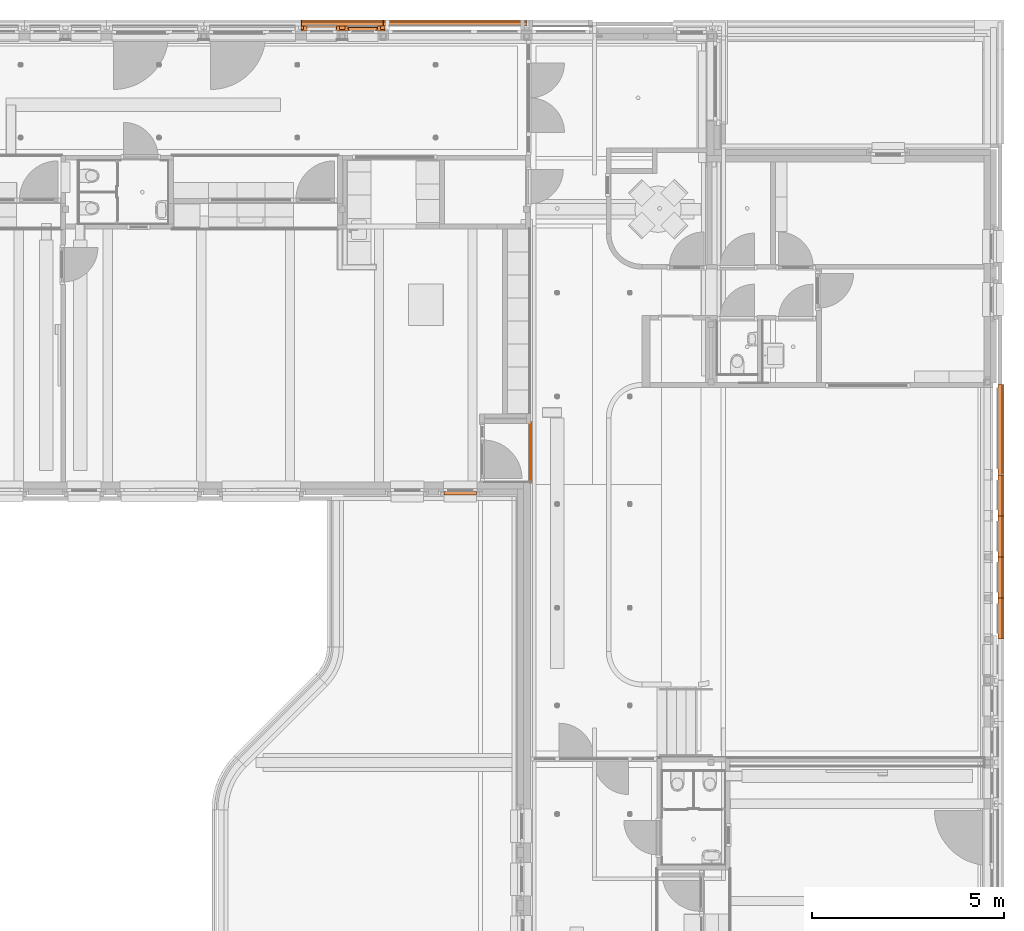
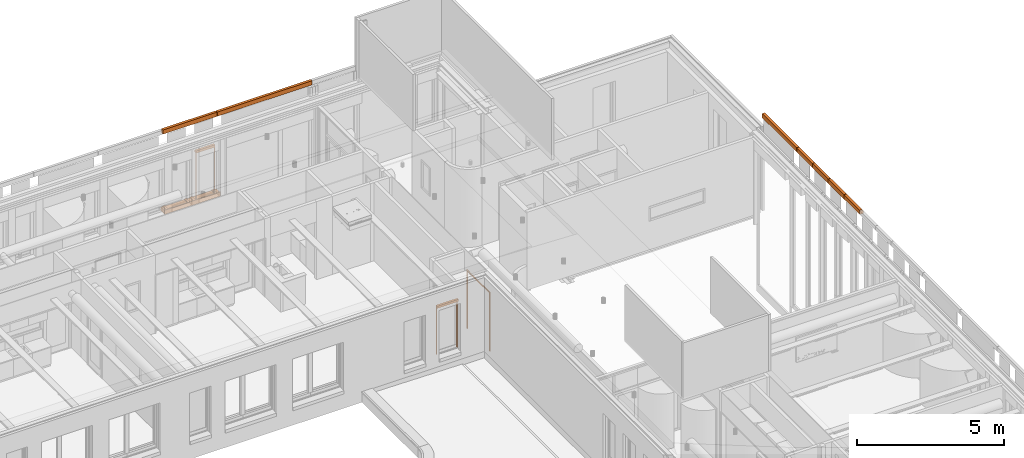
# One storey, part 120 of 128: 11 proxies.
"""IFC2X3 building model written with IfcOpenShell, lengths in millimetres."""

from ifc_helpers import new_model, entity, si_unit, converted_unit, derived_unit, direction, frame, frame_2d, origin, origin_2d_with_axis, place, context, subcontext, project, spatial, polyline, circle_curve, parameter, trimmed, segment, composite_curve, rectangle, outline, extrude, source, transform, mapped, material, material_list, type_object, type_shapes, element, save


model = new_model("IFC2X3")

# Units and contexts
model_context = context("Model", 3, precision=0.01, world=origin(), true_north=direction((6.123031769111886e-17, 1.0)))
body_context = subcontext(model_context, "Body", "Model", "MODEL_VIEW")
ifc_project = project(units=[si_unit("LENGTHUNIT", "METRE", prefix="MILLI"), si_unit("AREAUNIT", "SQUARE_METRE"), si_unit("VOLUMEUNIT", "CUBIC_METRE"), converted_unit("PLANEANGLEUNIT", "DEGREE", entity("IfcRatioMeasure", 0.017453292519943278), si_unit("PLANEANGLEUNIT", "RADIAN"), dimensions=[0, 0, 0, 0, 0, 0, 0]), si_unit("MASSUNIT", "GRAM", prefix="KILO"), derived_unit("MASSDENSITYUNIT", [(si_unit("MASSUNIT", "GRAM", prefix="KILO"), 1), (si_unit("LENGTHUNIT", "METRE"), -3)]), derived_unit("IONCONCENTRATIONUNIT", [(si_unit("MASSUNIT", "GRAM", prefix="KILO"), 1), (si_unit("LENGTHUNIT", "METRE"), -3)]), derived_unit("MOMENTOFINERTIAUNIT", [(si_unit("LENGTHUNIT", "METRE"), 4)]), si_unit("TIMEUNIT", "SECOND"), si_unit("FREQUENCYUNIT", "HERTZ"), si_unit("THERMODYNAMICTEMPERATUREUNIT", "DEGREE_CELSIUS"), derived_unit("THERMALTRANSMITTANCEUNIT", [(si_unit("MASSUNIT", "GRAM", prefix="KILO"), 1), (si_unit("THERMODYNAMICTEMPERATUREUNIT", "KELVIN"), -1), (si_unit("TIMEUNIT", "SECOND"), -3)]), derived_unit("THERMALCONDUCTANCEUNIT", [(si_unit("MASSUNIT", "GRAM", prefix="KILO"), 1), (si_unit("THERMODYNAMICTEMPERATUREUNIT", "KELVIN"), -1), (si_unit("TIMEUNIT", "SECOND"), -3), (si_unit("LENGTHUNIT", "METRE"), 1)]), derived_unit("VOLUMETRICFLOWRATEUNIT", [(si_unit("LENGTHUNIT", "METRE"), 3), (si_unit("TIMEUNIT", "SECOND"), -1)]), derived_unit("MASSFLOWRATEUNIT", [(si_unit("MASSUNIT", "GRAM", prefix="KILO"), 1), (si_unit("TIMEUNIT", "SECOND"), -1)]), derived_unit("ROTATIONALFREQUENCYUNIT", [(si_unit("TIMEUNIT", "SECOND"), -1)]), si_unit("ELECTRICCURRENTUNIT", "AMPERE"), si_unit("ELECTRICVOLTAGEUNIT", "VOLT"), si_unit("POWERUNIT", "WATT"), si_unit("FORCEUNIT", "NEWTON", prefix="KILO"), si_unit("ILLUMINANCEUNIT", "LUX"), si_unit("LUMINOUSFLUXUNIT", "LUMEN"), si_unit("LUMINOUSINTENSITYUNIT", "CANDELA"), derived_unit("USERDEFINED", [(si_unit("MASSUNIT", "GRAM", prefix="KILO"), -1), (si_unit("LENGTHUNIT", "METRE"), -2), (si_unit("TIMEUNIT", "SECOND"), 3), (si_unit("LUMINOUSFLUXUNIT", "LUMEN"), 1)]), derived_unit("USERDEFINED", [(si_unit("MASSUNIT", "GRAM", prefix="KILO"), 1), (si_unit("TIMEUNIT", "SECOND"), -3), (si_unit("LENGTHUNIT", "METRE"), 3), (si_unit("ELECTRICCURRENTUNIT", "AMPERE"), -2)]), derived_unit("SOUNDPOWERUNIT", [(si_unit("MASSUNIT", "GRAM", prefix="KILO"), 1), (si_unit("TIMEUNIT", "SECOND"), -3), (si_unit("LENGTHUNIT", "METRE"), 2)]), derived_unit("SOUNDPRESSUREUNIT", [(si_unit("MASSUNIT", "GRAM", prefix="KILO"), 1), (si_unit("LENGTHUNIT", "METRE"), -1), (si_unit("TIMEUNIT", "SECOND"), -2)]), derived_unit("LINEARVELOCITYUNIT", [(si_unit("LENGTHUNIT", "METRE"), 1), (si_unit("TIMEUNIT", "SECOND"), -1)]), si_unit("PRESSUREUNIT", "PASCAL"), derived_unit("USERDEFINED", [(si_unit("MASSUNIT", "GRAM", prefix="KILO"), 1), (si_unit("LENGTHUNIT", "METRE"), -2), (si_unit("TIMEUNIT", "SECOND"), -2)]), derived_unit("LINEARFORCEUNIT", [(si_unit("MASSUNIT", "GRAM", prefix="KILO"), 1), (si_unit("TIMEUNIT", "SECOND"), -2)]), derived_unit("PLANARFORCEUNIT", [(si_unit("MASSUNIT", "GRAM", prefix="KILO"), 1), (si_unit("LENGTHUNIT", "METRE"), -1), (si_unit("TIMEUNIT", "SECOND"), -2)]), derived_unit("SPECIFICHEATCAPACITYUNIT", [(si_unit("THERMODYNAMICTEMPERATUREUNIT", "KELVIN"), -1), (si_unit("LENGTHUNIT", "METRE"), 2), (si_unit("TIMEUNIT", "SECOND"), -2)]), derived_unit("HEATINGVALUEUNIT", [(si_unit("LENGTHUNIT", "METRE"), 2), (si_unit("TIMEUNIT", "SECOND"), -2)]), derived_unit("VAPORPERMEABILITYUNIT", [(si_unit("LENGTHUNIT", "METRE"), -1), (si_unit("TIMEUNIT", "SECOND"), 1)]), derived_unit("DYNAMICVISCOSITYUNIT", [(si_unit("MASSUNIT", "GRAM", prefix="KILO"), 1), (si_unit("TIMEUNIT", "SECOND"), -1), (si_unit("LENGTHUNIT", "METRE"), -1)]), derived_unit("THERMALEXPANSIONCOEFFICIENTUNIT", [(si_unit("THERMODYNAMICTEMPERATUREUNIT", "KELVIN"), -1)]), derived_unit("MODULUSOFELASTICITYUNIT", [(si_unit("MASSUNIT", "GRAM", prefix="KILO"), 1), (si_unit("LENGTHUNIT", "METRE"), -1), (si_unit("TIMEUNIT", "SECOND"), -2)]), derived_unit("ISOTHERMALMOISTURECAPACITYUNIT", [(si_unit("LENGTHUNIT", "METRE"), 3), (si_unit("MASSUNIT", "GRAM", prefix="KILO"), -1)]), derived_unit("MOISTUREDIFFUSIVITYUNIT", [(si_unit("TIMEUNIT", "SECOND"), -1), (si_unit("LENGTHUNIT", "METRE"), 2)])], contexts=[model_context])

# Site, building, storey
site_placement = place(None, frame((0.0, 300.0, 0.0)))
site = spatial("IfcSite", under=ifc_project, at=site_placement, Name="<Kadastrale nummers>", CompositionType="ELEMENT")
building_placement = place(site_placement, origin())
building = spatial("IfcBuilding", under=site, at=building_placement, CompositionType="ELEMENT")
storey_placement = place(building_placement, frame((0.0, 0.0, 3560.0000331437)))
storey = spatial("IfcBuildingStorey", under=building, at=storey_placement, Name="01 eerste verdieping", CompositionType="ELEMENT", Elevation=3560.0000331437)

# Proxies
ifc_material_1 = material(Name="ISR_Beton_prefab")
building_element_proxy_type_1 = type_object("IfcBuildingElementProxyType", Name="29_DAT_Prefab betonband afgeschuind:29_DAT_Prefab betonband afgeschuind", PredefinedType="NOTDEFINED", material=ifc_material_1)
shared_shape_1 = source(origin(), body_context, "Body", "SweptSolid", [
    extrude(outline(polyline([(-94.16666666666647, -83.33333333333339), (80.83333333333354, -83.33333333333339), (80.83333333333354, 16.66666666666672), (18.33333333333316, 16.666666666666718), (8.333333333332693, 66.66666666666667), (-94.16666666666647, 66.66666666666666), (-94.16666666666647, -83.33333333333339)])), frame((0.0, 16.66666666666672, -18.33333333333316), z_axis=(1.0, 0.0, 0.0), x_axis=(0.0, 0.0, 1.0)), (0.0, 0.0, 1.0), 2346.9999999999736),
])
type_shapes(building_element_proxy_type_1, [shared_shape_1])
proxy_1_placement = place(storey_placement, frame((48975.0, 38393.0, 4077.4999668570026), z_axis=(0.0, 0.0, 1.0), x_axis=(0.0, 1.0, 0.0)))
element("IfcBuildingElementProxy", 1, at=proxy_1_placement, inside=storey, type_object=building_element_proxy_type_1, material=ifc_material_1, Name="29_DAT_Prefab betonband afgeschuind:29_DAT_Prefab betonband afgeschuind", ObjectType="29_DAT_Prefab betonband afgeschuind:29_DAT_Prefab betonband afgeschuind", context=body_context, shape_type="MappedRepresentation", body=[
    mapped(shared_shape_1, transform((0.0, 0.0, 0.0), scale=1.0)),
])
building_element_proxy_type_2 = type_object("IfcBuildingElementProxyType", Name="29_DAT_Prefab betonband afgeschuind:29_DAT_Prefab betonband afgeschuind", PredefinedType="NOTDEFINED", material=ifc_material_1)
shared_shape_2 = source(origin(), body_context, "Body", "SweptSolid", [
    extrude(outline(polyline([(-83.33333333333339, -94.16666666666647), (66.66666666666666, -94.16666666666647), (66.66666666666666, 8.333333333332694), (16.66666666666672, 18.33333333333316), (16.666666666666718, 80.83333333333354), (-83.33333333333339, 80.83333333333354), (-83.33333333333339, -94.16666666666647)])), frame((0.0, -16.66666666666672, -18.33333333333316), z_axis=(1.0, 0.0, 0.0), x_axis=(0.0, 1.0, 0.0)), (0.0, 0.0, 1.0), 1063.9999999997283),
])
type_shapes(building_element_proxy_type_2, [shared_shape_2])
proxy_2_placement = place(storey_placement, frame((48975.0, 38387.0, 4077.4999668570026), z_axis=(0.0, 0.0, 1.0), x_axis=(0.0, -1.0, 0.0)))
element("IfcBuildingElementProxy", 2, at=proxy_2_placement, inside=storey, type_object=building_element_proxy_type_2, material=ifc_material_1, Name="29_DAT_Prefab betonband afgeschuind:29_DAT_Prefab betonband afgeschuind", ObjectType="29_DAT_Prefab betonband afgeschuind:29_DAT_Prefab betonband afgeschuind", context=body_context, shape_type="MappedRepresentation", body=[
    mapped(shared_shape_2, transform((0.0, 0.0, 0.0), scale=1.0)),
])
building_element_proxy_type_3 = type_object("IfcBuildingElementProxyType", Name="29_DAT_Prefab betonband afgeschuind:29_DAT_Prefab betonband afgeschuind", PredefinedType="NOTDEFINED", material=ifc_material_1)
shared_shape_3 = source(origin(), body_context, "Body", "SweptSolid", [
    extrude(outline(polyline([(-94.16666666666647, -83.33333333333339), (80.83333333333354, -83.33333333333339), (80.83333333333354, 16.66666666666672), (18.33333333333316, 16.666666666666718), (8.333333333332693, 66.66666666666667), (-94.16666666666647, 66.66666666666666), (-94.16666666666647, -83.33333333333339)])), frame((0.0, 16.66666666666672, -18.33333333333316), z_axis=(1.0, 0.0, 0.0), x_axis=(0.0, 0.0, 1.0)), (0.0, 0.0, 1.0), 1063.9999999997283),
])
type_shapes(building_element_proxy_type_3, [shared_shape_3])
for number, where, z_axis, x_axis, name in (
    (3, (48975.0, 36253.0, 4077.4999668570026), (0.0, 0.0, 1.0), (0.0, 1.0, 0.0), "29_DAT_Prefab betonband afgeschuind:29_DAT_Prefab betonband afgeschuind"),
    (4, (48975.0, 35183.0, 4077.4999668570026), (0.0, 0.0, 1.0), (0.0, 1.0, 0.0), "29_DAT_Prefab betonband afgeschuind:29_DAT_Prefab betonband afgeschuind"),
    (5, (48975.0, 34113.0, 4077.4999668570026), (0.0, 0.0, 1.0), (0.0, 1.0, 0.0), "29_DAT_Prefab betonband afgeschuind:29_DAT_Prefab betonband afgeschuind"),
):
    element("IfcBuildingElementProxy", number, at=place(storey_placement, frame(where, z_axis=z_axis, x_axis=x_axis)), inside=storey, type_object=building_element_proxy_type_3, material=ifc_material_1, Name=name, ObjectType="29_DAT_Prefab betonband afgeschuind:29_DAT_Prefab betonband afgeschuind", context=body_context, shape_type="MappedRepresentation", body=[
        mapped(shared_shape_3, transform((0.0, 0.0, 0.0), scale=1.0)),
    ])
ifc_material_2 = material(Name="STAAL_RAL 7006")
ifc_material_3 = material(Name="<Unnamed>")
ifc_material_list = material_list([ifc_material_2, ifc_material_3])
building_element_proxy_type_4 = type_object("IfcBuildingElementProxyType", Name="31_DAT_Screen_zonwering_bak85:31_DAT_Screen_zonwering_bak85", PredefinedType="NOTDEFINED", material=ifc_material_list)
shared_shape_4 = source(origin(), body_context, "Body", "SweptSolid", [
    extrude(outline(polyline([(-60.69864841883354, -53.573897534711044), (20.695945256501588, -53.573897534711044), (20.695945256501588, 1.1216926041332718), (22.501351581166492, 1.1216926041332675), (22.501351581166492, 24.626102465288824), (17.501351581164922, 24.626102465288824), (17.501351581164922, 27.826102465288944), (-60.69864841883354, 27.826102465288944), (-60.69864841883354, -53.573897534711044)])), frame((748.0, -29.62610246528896, 2752.501351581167), z_axis=(1.0, 0.0, 0.0), x_axis=(0.0, 0.0, -1.0)), (0.0, 0.0, 1.0), 1.9999999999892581),
    extrude(outline(polyline([(-55.83243227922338, -51.08259835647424), (29.167567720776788, -51.08259835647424), (29.167567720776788, 5.412991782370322), (27.362161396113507, 5.412991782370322), (27.362161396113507, -49.28259835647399), (-54.032432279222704, -49.28259835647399), (-54.032432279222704, 32.117401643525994), (24.16756772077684, 32.117401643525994), (24.16756772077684, 28.91740164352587), (29.167567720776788, 28.91740164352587), (29.167567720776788, 33.917401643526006), (-55.83243227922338, 33.917401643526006), (-55.83243227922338, -51.08259835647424)])), frame((0.0, -33.917401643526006, 2759.1675677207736), z_axis=(1.0, 0.0, 0.0), x_axis=(0.0, 0.0, -1.0)), (0.0, 0.0, 1.0), 749.9999999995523),
    extrude(outline(polyline([(-60.69864841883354, -53.573897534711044), (20.695945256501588, -53.573897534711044), (20.695945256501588, 1.1216926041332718), (22.501351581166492, 1.1216926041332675), (22.501351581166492, 24.626102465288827), (17.501351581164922, 24.626102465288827), (17.501351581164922, 27.826102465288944), (-60.69864841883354, 27.826102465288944), (-60.69864841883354, -53.573897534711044)])), frame((0.0, -29.62610246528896, 2752.501351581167), z_axis=(1.0, 0.0, 0.0), x_axis=(0.0, 0.0, -1.0)), (0.0, 0.0, 1.0), 1.999999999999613),
    extrude(rectangle(XDim=709.9999999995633, YDim=1.163311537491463, at=frame_2d((0.0, -2.1094237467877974e-15), x_axis=(1.0, 0.0))), frame((375.0, -20.037293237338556, 2730.0)), (0.0, 0.0, 1.0), 4.971712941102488),
    extrude(outline(composite_curve([segment(polyline([(-7.502327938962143, -23.023758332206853), (7.497672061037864, -23.023758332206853)]), True, "CONTINUOUS"), segment(trimmed(circle_curve(frame_2d((7.497672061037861, -21.523758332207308), x_axis=(0.0, -1.0)), 1.4999999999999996), [parameter(359.99999999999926)], [parameter(90.00000000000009)], True, "PARAMETER"), True, "CONTINUOUS"), segment(polyline([(8.997672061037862, -21.523758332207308), (8.997672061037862, 8.976241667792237)]), True, "CONTINUOUS"), segment(trimmed(circle_curve(frame_2d((5.99767206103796, 8.976241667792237), x_axis=(0.0, -1.0)), 3.0), [parameter(90.00000000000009)], [parameter(172.84454900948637)], True, "PARAMETER"), True, "CONTINUOUS"), segment(polyline([(6.371357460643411, 11.952877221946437), (2.232090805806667, 12.470504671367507)]), True, "CONTINUOUS"), segment(trimmed(circle_curve(frame_2d((2.1399803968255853, 11.733933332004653), x_axis=(0.0, -1.0)), 0.7423083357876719), [parameter(172.87199730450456)], [parameter(323.5235343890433)], True, "PARAMETER"), True, "CONTINUOUS"), segment(trimmed(circle_curve(frame_2d((-0.0023279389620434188, 8.976241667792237), x_axis=(0.0, -1.0)), 2.75), [parameter(217.47327986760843)], [parameter(141.78969998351)], True, "PARAMETER"), False, "CONTINUOUS"), segment(trimmed(circle_curve(frame_2d((-2.144636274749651, 11.733933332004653), x_axis=(0.0, -1.0)), 0.7423083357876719), [parameter(39.207114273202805)], [parameter(187.12800269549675)], True, "PARAMETER"), True, "CONTINUOUS"), segment(polyline([(-2.2367466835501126, 12.470504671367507), (-6.376013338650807, 11.952877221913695)]), True, "CONTINUOUS"), segment(trimmed(circle_curve(frame_2d((-6.002327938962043, 8.976241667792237), x_axis=(0.0, -1.0)), 3.0), [parameter(187.1554509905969)], [parameter(269.9999999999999)], True, "PARAMETER"), True, "CONTINUOUS"), segment(polyline([(-9.002327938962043, 8.976241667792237), (-9.002327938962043, -21.523758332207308)]), True, "CONTINUOUS"), segment(trimmed(circle_curve(frame_2d((-7.502327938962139, -21.523758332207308), x_axis=(0.0, -1.0)), 1.5000000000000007), [parameter(269.9999999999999)], [parameter(359.9999999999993)], True, "PARAMETER"), True, "CONTINUOUS")], self_intersect=False)), frame((20.0, -19.997672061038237, 2727.9954712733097), z_axis=(1.0, 0.0, 0.0), x_axis=(0.0, 1.0, 0.0)), (0.0, 0.0, 1.0), 709.9999999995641),
    extrude(outline(polyline([(-14.638298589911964, -16.231574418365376), (-13.138298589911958, -16.231574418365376), (-13.138298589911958, 12.232729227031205), (-6.116685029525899, 12.232729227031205), (-6.116685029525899, -6.231574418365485), (-1.116685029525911, -6.231574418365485), (-1.116685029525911, -4.769580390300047), (-4.579546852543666, -4.769580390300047), (-4.579546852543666, 12.23272922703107), (13.86611127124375, 12.23272922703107), (13.86611127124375, -4.769580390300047), (10.36170141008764, -4.769580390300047), (10.36170141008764, -6.2315744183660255), (15.36170141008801, -6.2315744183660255), (15.36170141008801, 13.768425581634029), (-14.638298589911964, 13.768425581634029), (-14.638298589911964, -16.231574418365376)])), frame((736.2315744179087, -14.638298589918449, 800.0), z_axis=(0.0, 0.0, 1.0), x_axis=(0.0, -1.0, 0.0)), (0.0, 0.0, 1.0), 1930.000000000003),
    extrude(outline(polyline([(-16.231574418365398, -14.638298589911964), (13.768425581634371, -14.638298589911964), (13.76842558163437, 15.361701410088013), (-6.231574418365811, 15.361701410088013), (-6.231574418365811, 10.361701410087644), (-4.769580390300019, 10.361701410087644), (-4.769580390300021, 13.866111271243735), (12.2327292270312, 13.866111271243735), (12.2327292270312, -4.57954685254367), (-4.769580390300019, -4.57954685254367), (-4.769580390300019, -1.1166850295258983), (-6.231574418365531, -1.1166850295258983), (-6.231574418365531, -6.116685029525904), (12.232729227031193, -6.116685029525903), (12.232729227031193, -13.138298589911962), (-16.231574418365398, -13.138298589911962), (-16.231574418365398, -14.638298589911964)])), frame((13.768425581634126, -14.638298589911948, 800.0), z_axis=(0.0, 0.0, 1.0), x_axis=(-1.0, 0.0, 0.0)), (0.0, 0.0, 1.0), 1930.0000000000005),
])
type_shapes(building_element_proxy_type_4, [shared_shape_4])
proxy_3_placement = place(storey_placement, frame((32710.0, 49951.0, 100.00000187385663), z_axis=(0.0, 0.0, 1.0), x_axis=(-1.0, 0.0, 0.0)))
element("IfcBuildingElementProxy", 6, at=proxy_3_placement, inside=storey, type_object=building_element_proxy_type_4, material=ifc_material_list, Name="31_DAT_Screen_zonwering_bak85:31_DAT_Screen_zonwering_bak85", ObjectType="31_DAT_Screen_zonwering_bak85:31_DAT_Screen_zonwering_bak85", context=body_context, shape_type="MappedRepresentation", body=[
    mapped(shared_shape_4, transform((0.0, 0.0, 0.0), scale=1.0)),
])
building_element_proxy_type_5 = type_object("IfcBuildingElementProxyType", Name="29_DAT_Prefab betonband afgeschuind:29_DAT_Prefab betonband afgeschuind", PredefinedType="NOTDEFINED", material=ifc_material_1)
shared_shape_5 = source(origin(), body_context, "Body", "SweptSolid", [
    extrude(outline(polyline([(-94.16666666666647, -83.33333333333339), (80.83333333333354, -83.33333333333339), (80.83333333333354, 16.66666666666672), (18.33333333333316, 16.666666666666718), (8.333333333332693, 66.66666666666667), (-94.16666666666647, 66.66666666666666), (-94.16666666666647, -83.33333333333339)])), frame((0.0, 16.66666666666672, -18.33333333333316), z_axis=(1.0, 0.0, 0.0), x_axis=(0.0, 0.0, 1.0)), (0.0, 0.0, 1.0), 2123.999999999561),
])
type_shapes(building_element_proxy_type_5, [shared_shape_5])
proxy_4_placement = place(storey_placement, frame((32867.0, 50175.0, 4077.4999668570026), z_axis=(0.0, 0.0, 1.0), x_axis=(-1.0, 0.0, 0.0)))
element("IfcBuildingElementProxy", 7, at=proxy_4_placement, inside=storey, type_object=building_element_proxy_type_5, material=ifc_material_1, Name="29_DAT_Prefab betonband afgeschuind:29_DAT_Prefab betonband afgeschuind", ObjectType="29_DAT_Prefab betonband afgeschuind:29_DAT_Prefab betonband afgeschuind", context=body_context, shape_type="MappedRepresentation", body=[
    mapped(shared_shape_5, transform((0.0, 0.0, 0.0), scale=1.0)),
])
building_element_proxy_type_6 = type_object("IfcBuildingElementProxyType", Name="29_DAT_Prefab betonband afgeschuind:29_DAT_Prefab betonband afgeschuind", PredefinedType="NOTDEFINED", material=ifc_material_1)
shared_shape_6 = source(origin(), body_context, "Body", "SweptSolid", [
    extrude(outline(polyline([(-94.16666666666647, -83.33333333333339), (80.83333333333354, -83.33333333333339), (80.83333333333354, 16.66666666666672), (18.33333333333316, 16.666666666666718), (8.333333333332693, 66.66666666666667), (-94.16666666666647, 66.66666666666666), (-94.16666666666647, -83.33333333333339)])), frame((0.0, 16.66666666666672, -18.33333333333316), z_axis=(1.0, 0.0, 0.0), x_axis=(0.0, 0.0, 1.0)), (0.0, 0.0, 1.0), 3724.00000000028),
])
type_shapes(building_element_proxy_type_6, [shared_shape_6])
proxy_5_placement = place(storey_placement, frame((36597.0, 50175.0, 4077.4999668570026), z_axis=(0.0, 0.0, 1.0), x_axis=(-1.0, 0.0, 0.0)))
element("IfcBuildingElementProxy", 8, at=proxy_5_placement, inside=storey, type_object=building_element_proxy_type_6, material=ifc_material_1, Name="29_DAT_Prefab betonband afgeschuind:29_DAT_Prefab betonband afgeschuind", ObjectType="29_DAT_Prefab betonband afgeschuind:29_DAT_Prefab betonband afgeschuind", context=body_context, shape_type="MappedRepresentation", body=[
    mapped(shared_shape_6, transform((0.0, 0.0, 0.0), scale=1.0)),
])
building_element_proxy_type_7 = type_object("IfcBuildingElementProxyType", Name="31_DAT_Screen_zonwering_bak85:31_DAT_Screen_zonwering_bak85", PredefinedType="NOTDEFINED", material=ifc_material_list)
shared_shape_7 = source(origin(), body_context, "Body", "SweptSolid", [
    extrude(outline(polyline([(-53.573897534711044, -60.698648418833), (27.826102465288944, -60.698648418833), (27.826102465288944, 17.501351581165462), (24.626102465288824, 17.501351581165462), (24.626102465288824, 22.501351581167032), (1.1216926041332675, 22.501351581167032), (1.1216926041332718, 20.695945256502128), (-53.573897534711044, 20.695945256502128), (-53.573897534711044, -60.698648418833)])), frame((838.0, 29.62610246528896, 2772.501351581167), z_axis=(1.0, 0.0, 0.0), x_axis=(0.0, -1.0, 0.0)), (0.0, 0.0, 1.0), 1.9999999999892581),
    extrude(outline(polyline([(-51.082598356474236, -55.832432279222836), (33.91740164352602, -55.832432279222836), (33.91740164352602, 29.167567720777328), (28.91740164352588, 29.167567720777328), (28.91740164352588, 24.16756772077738), (32.117401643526, 24.16756772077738), (32.117401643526, -54.032432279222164), (-49.28259835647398, -54.032432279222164), (-49.28259835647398, 27.362161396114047), (5.41299178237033, 27.362161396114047), (5.41299178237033, 29.167567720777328), (-51.082598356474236, 29.167567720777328), (-51.082598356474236, -55.832432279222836)])), frame((0.0, 33.91740164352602, 2779.1675677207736), z_axis=(1.0, 0.0, 0.0), x_axis=(0.0, -1.0, 0.0)), (0.0, 0.0, 1.0), 839.9999999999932),
    extrude(outline(polyline([(-53.573897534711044, -60.698648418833), (27.826102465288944, -60.698648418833), (27.826102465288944, 17.501351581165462), (24.626102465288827, 17.501351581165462), (24.626102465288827, 22.501351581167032), (1.1216926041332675, 22.501351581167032), (1.1216926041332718, 20.695945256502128), (-53.573897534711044, 20.695945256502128), (-53.573897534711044, -60.698648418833)])), frame((0.0, 29.62610246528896, 2772.501351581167), z_axis=(1.0, 0.0, 0.0), x_axis=(0.0, -1.0, 0.0)), (0.0, 0.0, 1.0), 1.999999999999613),
    extrude(rectangle(XDim=1.163311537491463, YDim=800.0000000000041, at=frame_2d((2.1094237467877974e-15, 0.0), x_axis=(1.0, 0.0))), frame((420.0, 20.03729323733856, 2750.0), z_axis=(0.0, 0.0, 1.0), x_axis=(0.0, -1.0, 0.0)), (0.0, 0.0, 1.0), 47.3934410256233),
    extrude(outline(composite_curve([segment(trimmed(circle_curve(frame_2d((21.523758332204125, 7.502327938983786), x_axis=(1.0, 0.0)), 1.5000000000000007), [parameter(6.615553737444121e-13)], [parameter(90.00000000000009)], True, "PARAMETER"), True, "CONTINUOUS"), segment(polyline([(21.523758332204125, 9.00232793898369), (-8.97624166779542, 9.00232793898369)]), True, "CONTINUOUS"), segment(trimmed(circle_curve(frame_2d((-8.97624166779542, 6.00232793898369), x_axis=(1.0, 0.0)), 3.0), [parameter(90.00000000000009)], [parameter(172.8445490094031)], True, "PARAMETER"), True, "CONTINUOUS"), segment(polyline([(-11.952877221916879, 6.376013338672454), (-12.470504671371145, 2.2367466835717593)]), True, "CONTINUOUS"), segment(trimmed(circle_curve(frame_2d((-11.733933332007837, 2.1446362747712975), x_axis=(1.0, 0.0)), 0.7423083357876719), [parameter(172.87199730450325)], [parameter(320.7928857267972)], True, "PARAMETER"), True, "CONTINUOUS"), segment(trimmed(circle_curve(frame_2d((-8.97624166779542, 0.002327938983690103), x_axis=(1.0, 0.0)), 2.75), [parameter(218.21030001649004)], [parameter(142.52672013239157)], True, "PARAMETER"), False, "CONTINUOUS"), segment(trimmed(circle_curve(frame_2d((-11.733933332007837, -2.1399803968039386), x_axis=(1.0, 0.0)), 0.7423083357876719), [parameter(36.476465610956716)], [parameter(187.12800269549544)], True, "PARAMETER"), True, "CONTINUOUS"), segment(polyline([(-12.470504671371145, -2.2320908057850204), (-11.95287722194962, -6.3713574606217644)]), True, "CONTINUOUS"), segment(trimmed(circle_curve(frame_2d((-8.97624166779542, -5.9976720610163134), x_axis=(1.0, 0.0)), 3.0), [parameter(187.15545099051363)], [parameter(269.9999999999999)], True, "PARAMETER"), True, "CONTINUOUS"), segment(polyline([(-8.97624166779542, -8.997672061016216), (21.523758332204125, -8.997672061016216)]), True, "CONTINUOUS"), segment(trimmed(circle_curve(frame_2d((21.523758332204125, -7.497672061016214), x_axis=(1.0, 0.0)), 1.4999999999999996), [parameter(269.9999999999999)], [parameter(7.124442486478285e-13)], True, "PARAMETER"), True, "CONTINUOUS"), segment(polyline([(23.02375833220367, -7.4976720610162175), (23.02375833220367, 7.50232793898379)]), True, "CONTINUOUS")], self_intersect=False)), frame((20.0, 19.99767206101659, 2790.417199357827), z_axis=(1.0, 0.0, 0.0), x_axis=(0.0, 0.0, -1.0)), (0.0, 0.0, 1.0), 800.0000000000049),
    extrude(outline(polyline([(-16.231574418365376, -14.638298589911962), (13.768425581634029, -14.638298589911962), (13.768425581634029, 15.36170141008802), (-6.2315744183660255, 15.36170141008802), (-6.2315744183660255, 10.361701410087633), (-4.769580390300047, 10.361701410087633), (-4.769580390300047, 13.866111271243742), (12.23272922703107, 13.866111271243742), (12.23272922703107, -4.579546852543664), (-4.769580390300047, -4.579546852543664), (-4.769580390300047, -1.1166850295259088), (-6.231574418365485, -1.1166850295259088), (-6.231574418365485, -6.116685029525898), (12.232729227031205, -6.116685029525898), (12.232729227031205, -13.138298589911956), (-16.231574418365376, -13.138298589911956), (-16.231574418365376, -14.638298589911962)])), frame((826.2315744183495, 14.638298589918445, 810.0)), (0.0, 0.0, 1.0), 1940.0000000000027),
    extrude(outline(polyline([(-14.638298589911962, -16.231574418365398), (-13.13829858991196, -16.231574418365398), (-13.13829858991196, 12.232729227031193), (-6.116685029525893, 12.232729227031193), (-6.116685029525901, -6.231574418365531), (-1.116685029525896, -6.231574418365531), (-1.116685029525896, -4.769580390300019), (-4.579546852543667, -4.769580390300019), (-4.579546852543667, 12.2327292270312), (13.866111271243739, 12.2327292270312), (13.866111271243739, -4.769580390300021), (10.361701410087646, -4.769580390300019), (10.361701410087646, -6.231574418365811), (15.361701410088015, -6.231574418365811), (15.361701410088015, 13.76842558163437), (-14.638298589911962, 13.76842558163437), (-14.638298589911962, -16.231574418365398)])), frame((13.768425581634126, 14.638298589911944, 810.0), z_axis=(0.0, 0.0, 1.0), x_axis=(0.0, 1.0, 0.0)), (0.0, 0.0, 1.0), 1940.0000000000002),
])
type_shapes(building_element_proxy_type_7, [shared_shape_7])
proxy_6_placement = place(storey_placement, frame((35294.0, 37949.0, 90.00000187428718), z_axis=(0.0, 0.0, 1.0), x_axis=(-1.0, 0.0, 0.0)))
element("IfcBuildingElementProxy", 9, at=proxy_6_placement, inside=storey, type_object=building_element_proxy_type_7, material=ifc_material_list, Name="31_DAT_Screen_zonwering_bak85:31_DAT_Screen_zonwering_bak85", ObjectType="31_DAT_Screen_zonwering_bak85:31_DAT_Screen_zonwering_bak85", context=body_context, shape_type="MappedRepresentation", body=[
    mapped(shared_shape_7, transform((0.0, 0.0, 0.0), scale=1.0)),
])

# Space
space_placement = place(storey_placement, origin())
space = spatial("IfcSpace", under=storey, at=space_placement, Name="1.12", CompositionType="ELEMENT", InteriorOrExteriorSpace="INTERNAL")

# Proxies
ifc_material_4 = material(Name="ISR_HPL Kleur hout")
building_element_proxy_type_8 = type_object("IfcBuildingElementProxyType", Name="82_DAT_Trimlat om element:82_DAT_Trimlat om element", PredefinedType="NOTDEFINED", material=ifc_material_4)
shared_shape_8 = source(origin(), body_context, "Body", "SweptSolid", [
    extrude(rectangle(XDim=19.999999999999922, YDim=34.99999999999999, at=origin_2d_with_axis()), frame((-17.500000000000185, -10.0, 0.0), z_axis=(0.0, 0.0, 1.0), x_axis=(0.0, 1.0, 0.0)), (0.0, 0.0, 1.0), 2400.000000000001),
    extrude(rectangle(XDim=20.000000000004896, YDim=34.99999999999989, at=frame_2d((0.0, -1.3500311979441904e-13), x_axis=(1.0, 0.0))), frame((1525.5000000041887, -10.0, 0.0), z_axis=(0.0, 0.0, 1.0), x_axis=(0.0, 1.0, 0.0)), (0.0, 0.0, 1.0), 2400.000000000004),
    extrude(rectangle(XDim=19.99999999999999, YDim=1578.0000000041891, at=origin_2d_with_axis()), frame((754.0, -10.0, 2400.0), z_axis=(0.0, 0.0, 1.0), x_axis=(0.0, 1.0, 0.0)), (0.0, 0.0, 1.0), 34.99999999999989),
])
type_shapes(building_element_proxy_type_8, [shared_shape_8])
proxy_7_placement = place(space_placement, frame((36700.0, 38212.0, 90.00000187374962), z_axis=(0.0, 0.0, 1.0), x_axis=(0.0, 1.0, 0.0)))
element("IfcBuildingElementProxy", 10, at=proxy_7_placement, inside=space, type_object=building_element_proxy_type_8, material=ifc_material_4, Name="82_DAT_Trimlat om element:82_DAT_Trimlat om element", ObjectType="82_DAT_Trimlat om element:82_DAT_Trimlat om element", context=body_context, shape_type="MappedRepresentation", body=[
    mapped(shared_shape_8, transform((0.0, 0.0, 0.0), scale=1.0)),
])
building_element_proxy_type_9 = type_object("IfcBuildingElementProxyType", Name="29_DAT_Prefab betonnen waterslag lang:29 dubbel", PredefinedType="NOTDEFINED", material=ifc_material_1)
shared_shape_9 = source(origin(), body_context, "Body", "SweptSolid", [
    extrude(outline(polyline([(-16.052237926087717, -115.0), (26.113434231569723, -115.0), (5.9910416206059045, 115.0), (-16.052237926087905, 115.0), (-16.052237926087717, -115.0)])), frame((2040.0, 75.0, -16.05223792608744), z_axis=(1.0, 0.0, 0.0), x_axis=(0.0, 0.0, -1.0)), (0.0, 0.0, 1.0), 79.99999999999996),
    extrude(outline(polyline([(-16.052237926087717, -115.0), (26.113434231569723, -115.0), (5.9910416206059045, 115.0), (-16.052237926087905, 115.0), (-16.052237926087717, -115.0)])), frame((1190.0, 75.0, -16.05223792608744), z_axis=(1.0, 0.0, 0.0), x_axis=(0.0, 0.0, -1.0)), (0.0, 0.0, 1.0), 80.00000000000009),
    extrude(outline(polyline([(-16.052237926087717, -115.0), (26.113434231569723, -115.0), (5.9910416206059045, 115.0), (-16.052237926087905, 115.0), (-16.052237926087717, -115.0)])), frame((970.0, 75.0, -16.05223792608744), z_axis=(1.0, 0.0, 0.0), x_axis=(0.0, 0.0, -1.0)), (0.0, 0.0, 1.0), 79.99999999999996),
    extrude(outline(polyline([(-16.052237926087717, -115.0), (26.113434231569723, -115.0), (5.9910416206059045, 115.0), (-16.052237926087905, 115.0), (-16.052237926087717, -115.0)])), frame((120.0, 75.0, -16.05223792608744), z_axis=(1.0, 0.0, 0.0), x_axis=(0.0, 0.0, -1.0)), (0.0, 0.0, 1.0), 80.0),
    extrude(outline(composite_curve([segment(polyline([(-140.0, -95.7340207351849), (-110.0, -95.7340207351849)]), True, "CONTINUOUS"), segment(polyline([(-110.0, -95.7340207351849), (-110.0, -73.7340207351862)]), True, "CONTINUOUS"), segment(polyline([(-110.0, -73.7340207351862), (140.0, -51.861854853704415)]), True, "CONTINUOUS"), segment(polyline([(140.0, -51.86185485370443), (140.0, 79.26597926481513)]), True, "CONTINUOUS"), segment(polyline([(140.0, 79.26597926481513), (115.0, 79.26597926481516)]), True, "CONTINUOUS"), segment(trimmed(circle_curve(frame_2d((110.0, 79.26597926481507), x_axis=(1.0, 0.0)), 5.000000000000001), [parameter(179.99999999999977)], [parameter(4.0711099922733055e-13)], True, "PARAMETER"), False, "CONTINUOUS"), segment(polyline([(105.0, 79.26597926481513), (-140.0, 79.26597926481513)]), True, "CONTINUOUS"), segment(polyline([(-140.0, 79.26597926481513), (-140.0, -95.7340207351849)]), True, "CONTINUOUS")], self_intersect=False)), frame((0.0, 80.0, -95.73402073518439), z_axis=(1.0, 0.0, 0.0), x_axis=(0.0, -1.0, 0.0)), (0.0, 0.0, 1.0), 2187.0000000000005),
])
type_shapes(building_element_proxy_type_9, [shared_shape_9])
proxy_8_placement = place(storey_placement, frame((32920.0, 50165.0, 890.0000018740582), z_axis=(0.0, 0.0, 1.0), x_axis=(-1.0, 0.0, 0.0)))
element("IfcBuildingElementProxy", 11, at=proxy_8_placement, inside=storey, type_object=building_element_proxy_type_9, material=ifc_material_1, Name="29_DAT_Prefab betonnen waterslag lang:29 dubbel", ObjectType="29_DAT_Prefab betonnen waterslag lang:29 dubbel", context=body_context, shape_type="MappedRepresentation", body=[
    mapped(shared_shape_9, transform((0.0, 0.0, 0.0), scale=1.0)),
])

save(model, "model.ifc")
